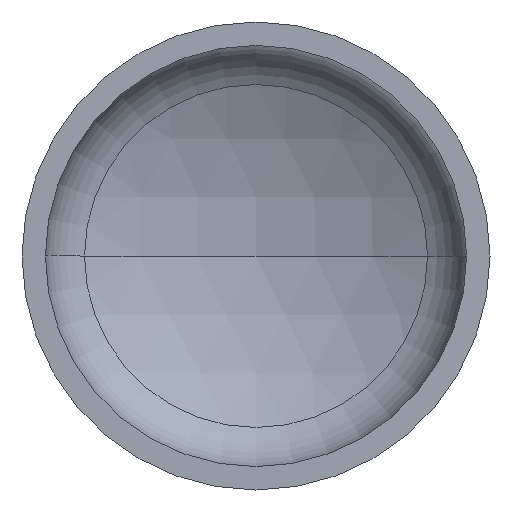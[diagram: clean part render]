
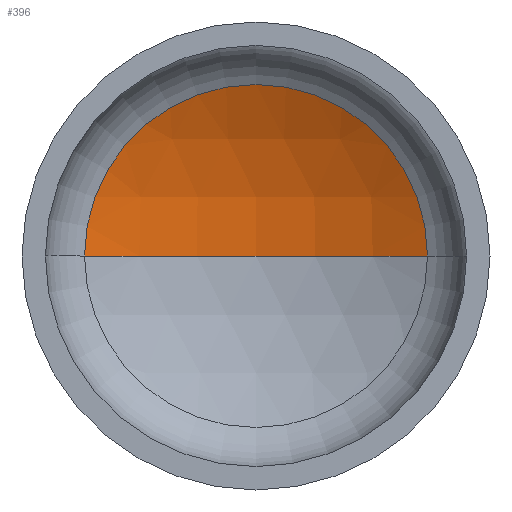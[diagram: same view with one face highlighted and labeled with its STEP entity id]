
A CAD part, front view. The second image highlights one B-rep face of the part: STEP entity #396.
In plain terms, the highlighted spherical face has radius 1920 mm.
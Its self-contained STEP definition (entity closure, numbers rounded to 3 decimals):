
#3 = AXIS2_PLACEMENT_3D ( 'NONE', #333, #247, #103 ) ;
#19 = AXIS2_PLACEMENT_3D ( 'NONE', #96, #97, #98 ) ;
#20 = AXIS2_PLACEMENT_3D ( 'NONE', #139, #147, #156 ) ;
#42 = ORIENTED_EDGE ( 'NONE', *, *, #331, .T. ) ;
#45 = EDGE_LOOP ( 'NONE', ( #59, #42, #152 ) ) ;
#59 = ORIENTED_EDGE ( 'NONE', *, *, #348, .F. ) ;
#94 = VERTEX_POINT ( 'NONE', #191 ) ;
#96 = CARTESIAN_POINT ( 'NONE',  ( 0., -1302.824, 0. ) ) ;
#97 = DIRECTION ( 'NONE',  ( 0., 0., -1. ) ) ;
#98 = DIRECTION ( 'NONE',  ( -1., 0., 0. ) ) ;
#103 = DIRECTION ( 'NONE',  ( 1., 0., 0. ) ) ;
#117 = CIRCLE ( 'NONE', #3, 879.484 ) ;
#120 = VERTEX_POINT ( 'NONE', #218 ) ;
#139 = CARTESIAN_POINT ( 'NONE',  ( 0., -1302.824, 0. ) ) ;
#145 = VERTEX_POINT ( 'NONE', #187 ) ;
#147 = DIRECTION ( 'NONE',  ( 0., 0., 1. ) ) ;
#152 = ORIENTED_EDGE ( 'NONE', *, *, #355, .T. ) ;
#156 = DIRECTION ( 'NONE',  ( 1., 0., 0. ) ) ;
#187 = CARTESIAN_POINT ( 'NONE',  ( 0., 617.176, 0. ) ) ;
#188 = SPHERICAL_SURFACE ( 'NONE', #323, 1920. ) ;
#191 = CARTESIAN_POINT ( 'NONE',  ( -879.484, 403.9, 0. ) ) ;
#218 = CARTESIAN_POINT ( 'NONE',  ( 879.484, 403.9, 0. ) ) ;
#245 = DIRECTION ( 'NONE',  ( -1., 0., 0. ) ) ;
#247 = DIRECTION ( 'NONE',  ( 0., -1., 0. ) ) ;
#271 = CIRCLE ( 'NONE', #19, 1920. ) ;
#312 = FACE_OUTER_BOUND ( 'NONE', #45, .T. ) ;
#313 = DIRECTION ( 'NONE',  ( 0., 0., -1. ) ) ;
#323 = AXIS2_PLACEMENT_3D ( 'NONE', #342, #313, #245 ) ;
#331 = EDGE_CURVE ( 'NONE', #145, #120, #271, .T. ) ;
#333 = CARTESIAN_POINT ( 'NONE',  ( 0., 403.9, 0. ) ) ;
#340 = CIRCLE ( 'NONE', #20, 1920. ) ;
#342 = CARTESIAN_POINT ( 'NONE',  ( 0., -1302.824, 0. ) ) ;
#348 = EDGE_CURVE ( 'NONE', #145, #94, #340, .T. ) ;
#355 = EDGE_CURVE ( 'NONE', #120, #94, #117, .T. ) ;
#396 = ADVANCED_FACE ( 'NONE', ( #312 ), #188, .F. ) ;
